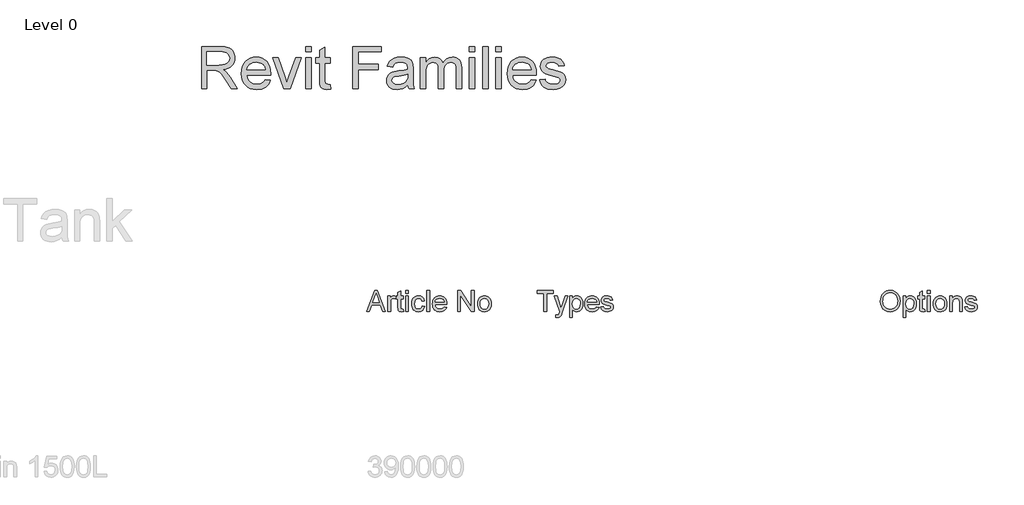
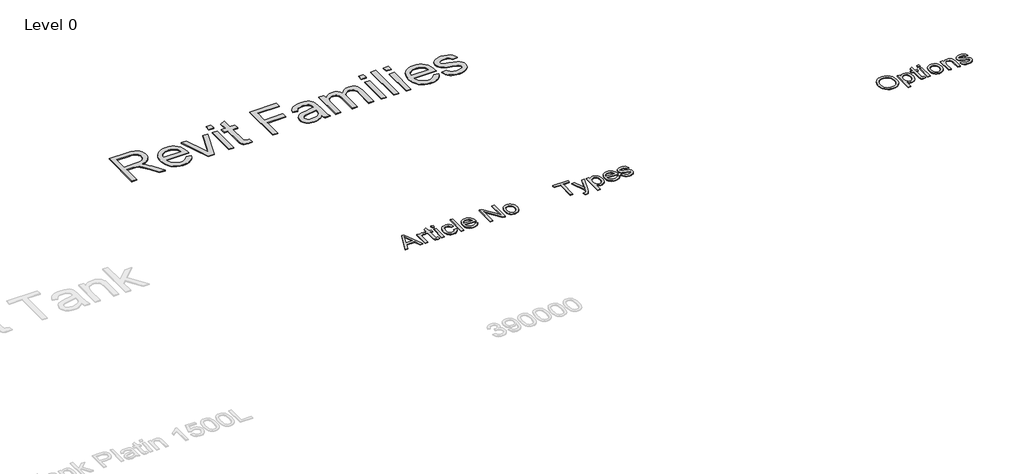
# One storey, part 14 of 14: 4 proxies.
"""IFC4 building model written with IfcOpenShell, lengths in millimetres."""

from ifc_helpers import new_model, si_unit, origin, origin_with_axes, place, context, project, spatial, polyline, outline, extrude, element, save

model = new_model("IFC4")

# Units and contexts
model_context = context("Model", 3, world=origin())
ifc_project = project(units=[si_unit("LENGTHUNIT", "METRE", prefix="MILLI")], contexts=[model_context])

# Site, building, storey
site = spatial("IfcSite", under=ifc_project)
building = spatial("IfcBuilding", under=site)
storey = spatial("IfcBuildingStorey", under=building, Name="Level 0", Elevation=0.0)

# Proxies
placement = place(None, origin())
element("IfcBuildingElementProxy", 1, Name="300mm Arial", ObjectType="300mm Arial", at=placement, inside=storey, context=model_context, shape_type="SweptSolid", body=[
    extrude(outline(polyline([(-3763.9663544, 11653.8274553), (-3763.9663544, 11912.2889938), (-3860.8894313, 11912.2889938), (-3860.8894313, 11949.2120707), (-3630.1202005, 11949.2120707), (-3630.1202005, 11912.2889938), (-3727.0432775, 11912.2889938), (-3727.0432775, 11653.8274553), (-3763.9663544, 11653.8274553)])), origin_with_axes(), (0.0, 0.0, 1.0), 10.0),
    extrude(outline(polyline([(-3593.1971236, 11570.7505323), (-3597.8125082, 11606.3034169), (-3579.0625082, 11603.0582246), (-3561.5384698, 11607.1327438), (-3550.7932775, 11618.4909169), (-3540.6971236, 11645.6784169), (-3537.8125082, 11654.6207246), (-3616.2740467, 11870.7505323), (-3577.331739, 11870.7505323), (-3535.7211621, 11750.31784), (-3521.2259698, 11702.144763), (-3506.7307775, 11744.69284), (-3463.9663544, 11870.7505323), (-3425.3125082, 11870.7505323), (-3500.8173159, 11648.6351476), (-3520.4327005, 11600.4620707), (-3530.4747678, 11585.083465), (-3541.8509698, 11574.4284169), (-3555.066114, 11568.208465), (-3570.6250082, 11566.1351476), (-3593.1971236, 11570.7505323)])), origin_with_axes(), (0.0, 0.0, 1.0), 10.0),
    extrude(outline(polyline([(-3394.7355852, 11570.7505323), (-3394.7355852, 11870.7505323), (-3357.8125082, 11870.7505323), (-3357.8125082, 11834.5486092), (-3345.769239, 11852.4061813), (-3332.2836621, 11865.16159), (-3316.5625082, 11872.8148351), (-3297.8125082, 11875.3659169), (-3272.8425563, 11871.7962053), (-3251.0096236, 11861.0870707), (-3233.2331813, 11843.8875515), (-3220.4327005, 11820.8466861), (-3212.6983255, 11793.6411573), (-3210.1202005, 11763.9476476), (-3213.0318592, 11732.3701236), (-3221.7668352, 11704.1279361), (-3236.0456813, 11680.6543784), (-3255.5889505, 11663.3827438), (-3278.3503688, 11652.754739), (-3302.2836621, 11649.2120707), (-3319.2578207, 11651.582864), (-3334.4110659, 11658.6952438), (-3347.3828207, 11669.4314217), (-3357.8125082, 11682.6736092), (-3357.8125082, 11570.7505323), (-3394.7355852, 11570.7505323)]), holes=[polyline([(-3357.8125082, 11760.5582246), (-3353.8191188, 11727.457263), (-3341.8389505, 11704.3082246), (-3324.1616669, 11690.6784169), (-3303.0769313, 11686.1351476), (-3281.6496477, 11690.8406765), (-3263.5216428, 11704.957263), (-3251.1628688, 11728.9536573), (-3247.0432775, 11763.2986092), (-3251.0637102, 11796.2192823), (-3263.1250082, 11819.69284), (-3280.7752486, 11833.75534), (-3301.5625082, 11838.44284), (-3322.4308977, 11833.457864), (-3340.7572198, 11818.5029361), (-3353.5486861, 11794.0468063), (-3357.8125082, 11760.5582246)])]), origin_with_axes(), (0.0, 0.0, 1.0), 10.0),
    extrude(outline(polyline([(-3016.706739, 11718.44284), (-2980.5048159, 11713.8274553), (-2993.5486861, 11686.5498111), (-3014.362989, 11666.1591861), (-3042.4789746, 11653.4488496), (-3077.4278928, 11649.2120707), (-3100.3380491, 11651.039745), (-3120.7512102, 11656.5227678), (-3138.667376, 11665.6611392), (-3154.0865467, 11678.4548592), (-3166.4858856, 11694.547858), (-3175.3425563, 11713.5840659), (-3180.6565587, 11735.563483), (-3182.4278928, 11760.4861092), (-3180.6385299, 11786.2538375), (-3175.2704409, 11808.9656765), (-3166.323626, 11828.621626), (-3153.7980852, 11845.2216861), (-3138.4194794, 11858.4097871), (-3120.9134698, 11867.8298592), (-3101.2800563, 11873.4819025), (-3079.519239, 11875.3659169), (-3058.4592931, 11873.4864097), (-3039.4140707, 11867.847888), (-3022.3835719, 11858.450352), (-3007.3677967, 11845.2938015), (-2995.1104349, 11828.7297991), (-2986.3551765, 11809.1099073), (-2981.1020215, 11786.434126), (-2979.3509698, 11760.7024553), (-2979.5673159, 11750.7505323), (-3145.5048159, 11750.7505323), (-3139.11359, 11723.1123111), (-3124.2668352, 11702.7938015), (-3102.8395515, 11690.2998111), (-3076.706739, 11686.1351476), (-3057.0552967, 11688.0642342), (-3040.5048159, 11693.8514938), (-3027.0552967, 11703.8575034), (-3016.706739, 11718.44284)]), holes=[polyline([(-3145.5048159, 11787.6736092), (-3016.2740467, 11787.6736092), (-3021.2680371, 11807.1808207), (-3031.0577005, 11821.1351476), (-3052.5841428, 11834.1159169), (-3079.6634698, 11838.44284), (-3104.5522919, 11834.9903159), (-3125.1322198, 11824.6327438), (-3139.4381092, 11808.4879121), (-3145.5048159, 11787.6736092)])]), origin_with_axes(), (0.0, 0.0, 1.0), 10.0),
    extrude(outline(polyline([(-2956.2740467, 11718.44284), (-2919.3509698, 11723.0582246), (-2913.5276525, 11707.2649553), (-2902.2596236, 11695.6543784), (-2885.4747678, 11688.5149553), (-2863.1009698, 11686.1351476), (-2840.9976044, 11688.316638), (-2825.456739, 11694.8611092), (-2816.2620275, 11704.3442823), (-2813.1971236, 11715.3418784), (-2816.2800563, 11724.7529361), (-2825.5288544, 11731.9284169), (-2863.5336621, 11742.457263), (-2919.1346236, 11760.5221669), (-2933.206138, 11769.5996909), (-2943.4014505, 11781.6159169), (-2949.5943592, 11795.8046188), (-2951.6586621, 11811.3995707), (-2950.0000082, 11825.7054601), (-2945.0240467, 11838.91159), (-2937.1814986, 11850.4951236), (-2926.9230852, 11859.9332246), (-2903.4495275, 11870.8587053), (-2871.6827005, 11875.3659169), (-2847.6502486, 11873.5540178), (-2826.7548159, 11868.1183207), (-2809.9519313, 11859.5906765), (-2798.1971236, 11848.5029361), (-2790.4086621, 11834.0347871), (-2785.5048159, 11815.3659169), (-2822.4278928, 11810.7505323), (-2827.0883496, 11822.3701236), (-2836.3101044, 11831.1231284), (-2850.1833015, 11836.6129121), (-2868.7980852, 11838.44284), (-2890.0000082, 11836.6940419), (-2904.1346236, 11831.4476476), (-2912.0853448, 11823.8755323), (-2914.7355852, 11815.1495707), (-2910.3365467, 11804.4043784), (-2896.5625082, 11796.25534), (-2864.7596236, 11788.394763), (-2810.5649121, 11771.0149553), (-2796.2500082, 11762.7036573), (-2785.3966428, 11751.3274553), (-2778.5546957, 11736.8502919), (-2776.2740467, 11719.2361092), (-2778.9513303, 11701.0269746), (-2786.9831813, 11683.8995707), (-2800.0631092, 11669.1970467), (-2817.8846236, 11658.2625515), (-2839.4110659, 11651.4746909), (-2863.6057775, 11649.2120707), (-2900.8353448, 11653.5750515), (-2928.0048159, 11666.6639938), (-2946.1418352, 11688.3346669), (-2956.2740467, 11718.44284)])), origin_with_axes(), (0.0, 0.0, 1.0), 10.0),
])
element("IfcBuildingElementProxy", 2, Name="300mm Arial", ObjectType="300mm Arial", at=placement, inside=storey, context=model_context, shape_type="SweptSolid", body=[
    extrude(outline(polyline([(1016.0617812, 11797.6255323), (1018.5227187, 11832.2724674), (1025.9055312, 11862.9440419), (1038.2102187, 11889.6402558), (1055.4367812, 11912.3611092), (1076.5530673, 11930.5026356), (1100.5269254, 11943.4608688), (1127.3583557, 11951.2358087), (1157.0473581, 11953.8274553), (1195.7913485, 11948.9596669), (1230.5329351, 11934.3563015), (1259.3790889, 11911.0450034), (1280.4367812, 11880.0534169), (1293.3093774, 11842.8779361), (1297.6002427, 11801.0149553), (1293.0840168, 11758.5930803), (1279.5353389, 11720.894763), (1257.7024062, 11689.84909), (1228.3334158, 11667.3851476), (1193.8893052, 11653.75534), (1156.831012, 11649.2120707), (1117.4920697, 11654.2331044), (1082.5521658, 11669.2962053), (1053.7781274, 11693.0401957), (1032.9367812, 11724.1038976), (1020.2805312, 11759.8460851), (1016.0617812, 11797.6255323)]), holes=[polyline([(1052.9848581, 11797.2649553), (1054.8305613, 11772.7862895), (1060.3676706, 11751.0570226), (1069.5961863, 11732.0771549), (1082.5161081, 11715.8466861), (1098.2214867, 11702.847888), (1115.8063726, 11693.5630323), (1135.2707656, 11687.9921188), (1156.6146658, 11686.1351476), (1178.3236502, 11688.0101476), (1198.017911, 11693.6351476), (1215.6974483, 11703.0101476), (1231.362262, 11716.1351476), (1244.1875324, 11732.7081645), (1253.3484399, 11752.427215), (1258.8449843, 11775.2922991), (1260.6771658, 11801.3034169), (1257.5401466, 11833.989715), (1248.1290889, 11862.2409169), (1232.6873822, 11885.3448832), (1211.4584158, 11902.5894746), (1185.8484399, 11913.3256525), (1157.2637043, 11916.9043784), (1136.6612403, 11915.18037), (1117.5461562, 11910.0083448), (1099.9184519, 11901.3883027), (1083.7781274, 11889.3202438), (1070.3060721, 11873.2227378), (1060.6831754, 11852.5143544), (1054.9094375, 11827.1950936), (1052.9848581, 11797.2649553)])]), origin_with_axes(), (0.0, 0.0, 1.0), 10.0),
    extrude(outline(polyline([(1343.7540889, 11570.7505323), (1343.7540889, 11870.7505323), (1380.6771658, 11870.7505323), (1380.6771658, 11834.5486092), (1392.7204351, 11852.4061813), (1406.206012, 11865.16159), (1421.9271658, 11872.8148351), (1440.6771658, 11875.3659169), (1465.6471177, 11871.7962053), (1487.4800504, 11861.0870707), (1505.2564927, 11843.8875515), (1518.0569735, 11820.8466861), (1525.7913485, 11793.6411573), (1528.3694735, 11763.9476476), (1525.4578149, 11732.3701236), (1516.7228389, 11704.1279361), (1502.4439927, 11680.6543784), (1482.9007235, 11663.3827438), (1460.1393052, 11652.754739), (1436.206012, 11649.2120707), (1419.2318533, 11651.582864), (1404.0786081, 11658.6952438), (1391.1068533, 11669.4314217), (1380.6771658, 11682.6736092), (1380.6771658, 11570.7505323), (1343.7540889, 11570.7505323)]), holes=[polyline([(1380.6771658, 11760.5582246), (1384.6705552, 11727.457263), (1396.6507235, 11704.3082246), (1414.3280072, 11690.6784169), (1435.4127427, 11686.1351476), (1456.8400264, 11690.8406765), (1474.9680312, 11704.957263), (1487.3268052, 11728.9536573), (1491.4463966, 11763.2986092), (1487.4259639, 11796.2192823), (1475.3646658, 11819.69284), (1457.7144254, 11833.75534), (1436.9271658, 11838.44284), (1416.0587764, 11833.457864), (1397.7324543, 11818.5029361), (1384.9409879, 11794.0468063), (1380.6771658, 11760.5582246)])]), origin_with_axes(), (0.0, 0.0, 1.0), 10.0),
    extrude(outline(polyline([(1648.3694735, 11684.6207246), (1652.9848581, 11652.7457246), (1625.3646658, 11649.2120707), (1607.6423101, 11650.7445226), (1594.4271658, 11655.3418784), (1585.0882235, 11662.427215), (1578.9944735, 11671.4236092), (1575.6411081, 11686.8743303), (1574.5233197, 11713.3226476), (1574.5233197, 11833.8274553), (1546.831012, 11833.8274553), (1546.831012, 11870.7505323), (1574.5233197, 11870.7505323), (1574.5233197, 11923.4668784), (1611.4463966, 11945.1736092), (1611.4463966, 11870.7505323), (1648.3694735, 11870.7505323), (1648.3694735, 11833.8274553), (1611.4463966, 11833.8274553), (1611.4463966, 11714.4043784), (1613.393512, 11695.3659169), (1619.7036081, 11688.6231284), (1632.2877427, 11686.1351476), (1648.3694735, 11684.6207246)])), origin_with_axes(), (0.0, 0.0, 1.0), 10.0),
    extrude(outline(polyline([(1685.2925504, 11653.8274553), (1685.2925504, 11870.7505323), (1722.2156274, 11870.7505323), (1722.2156274, 11653.8274553), (1685.2925504, 11653.8274553)])), origin_with_axes(), (0.0, 0.0, 1.0), 10.0),
    extrude(outline(polyline([(1685.2925504, 11912.2889938), (1685.2925504, 11949.2120707), (1722.2156274, 11949.2120707), (1722.2156274, 11912.2889938), (1685.2925504, 11912.2889938)])), origin_with_axes(), (0.0, 0.0, 1.0), 10.0),
    extrude(outline(polyline([(1768.3694735, 11762.2889938), (1770.3661682, 11790.3824433), (1776.3562524, 11814.5906765), (1786.3397259, 11834.9136933), (1800.3165889, 11851.3514938), (1814.3881033, 11861.8578039), (1829.9199543, 11869.3623111), (1846.9121418, 11873.8650154), (1865.3646658, 11875.3659169), (1885.7350084, 11873.5382426), (1904.1537283, 11868.0552198), (1920.6208257, 11858.9168484), (1935.1363004, 11846.1231284), (1946.983506, 11830.1067522), (1955.4457956, 11811.3004121), (1960.5231694, 11789.704108), (1962.2156274, 11765.31784), (1959.2228389, 11728.0161573), (1950.2444735, 11699.6207246), (1935.5419495, 11678.3557005), (1915.3766851, 11662.4452438), (1891.4253629, 11652.520364), (1865.3646658, 11649.2120707), (1844.6968473, 11651.0329842), (1826.1068533, 11656.4957246), (1809.5946838, 11665.6002919), (1795.1603389, 11678.3466861), (1783.4393353, 11694.5185611), (1775.0671899, 11713.8995707), (1770.0439026, 11736.489715), (1768.3694735, 11762.2889938)]), holes=[polyline([(1805.2925504, 11762.3611092), (1809.565387, 11728.9446428), (1822.3838966, 11705.1375515), (1841.674762, 11690.8857486), (1865.3646658, 11686.1351476), (1888.9463966, 11690.9127919), (1908.2012043, 11705.2457246), (1921.0197139, 11729.3683207), (1925.2925504, 11763.5149553), (1920.9926706, 11795.957864), (1908.0930312, 11819.4404361), (1888.8111802, 11833.692239), (1865.3646658, 11838.44284), (1841.674762, 11833.7102678), (1822.3838966, 11819.5125515), (1809.565387, 11795.7595467), (1805.2925504, 11762.3611092)])]), origin_with_axes(), (0.0, 0.0, 1.0), 10.0),
    extrude(outline(polyline([(2003.7540889, 11653.8274553), (2003.7540889, 11870.7505323), (2040.6771658, 11870.7505323), (2040.6771658, 11840.4620707), (2053.5046899, 11855.7325034), (2068.9103389, 11866.6399553), (2086.8941129, 11873.1844265), (2107.456012, 11875.3659169), (2125.6561322, 11873.6081044), (2142.3238004, 11868.3346669), (2156.2240408, 11860.2036573), (2166.1218774, 11849.8731284), (2177.1915889, 11822.7216861), (2179.1387043, 11787.0245707), (2179.1387043, 11653.8274553), (2142.2156274, 11653.8274553), (2142.2156274, 11782.0486092), (2137.9608197, 11814.7168784), (2132.0744014, 11824.4434409), (2122.924762, 11831.988513), (2111.1969976, 11836.8292582), (2097.5762043, 11838.44284), (2075.9506033, 11834.8190419), (2057.5161081, 11823.9476476), (2050.1490709, 11815.0729481), (2044.8869014, 11802.9440419), (2040.6771658, 11768.9236092), (2040.6771658, 11653.8274553), (2003.7540889, 11653.8274553)])), origin_with_axes(), (0.0, 0.0, 1.0), 10.0),
    extrude(outline(polyline([(2216.0617812, 11718.44284), (2252.9848581, 11723.0582246), (2258.8081754, 11707.2649553), (2270.0762043, 11695.6543784), (2286.8610601, 11688.5149553), (2309.2348581, 11686.1351476), (2331.3382235, 11688.316638), (2346.8790889, 11694.8611092), (2356.0738004, 11704.3442823), (2359.1387043, 11715.3418784), (2356.0557716, 11724.7529361), (2346.8069735, 11731.9284169), (2308.8021658, 11742.457263), (2253.2012043, 11760.5221669), (2239.1296899, 11769.5996909), (2228.9343774, 11781.6159169), (2222.7414687, 11795.8046188), (2220.6771658, 11811.3995707), (2222.3358197, 11825.7054601), (2227.3117812, 11838.91159), (2235.1543293, 11850.4951236), (2245.4127427, 11859.9332246), (2268.8863004, 11870.8587053), (2300.6531274, 11875.3659169), (2324.6855793, 11873.5540178), (2345.581012, 11868.1183207), (2362.3838966, 11859.5906765), (2374.1387043, 11848.5029361), (2381.9271658, 11834.0347871), (2386.831012, 11815.3659169), (2349.9079351, 11810.7505323), (2345.2474783, 11822.3701236), (2336.0257235, 11831.1231284), (2322.1525264, 11836.6129121), (2303.5377427, 11838.44284), (2282.3358197, 11836.6940419), (2268.2012043, 11831.4476476), (2260.2504831, 11823.8755323), (2257.6002427, 11815.1495707), (2261.9992812, 11804.4043784), (2275.7733197, 11796.25534), (2307.5762043, 11788.394763), (2361.7709158, 11771.0149553), (2376.0858197, 11762.7036573), (2386.9391851, 11751.3274553), (2393.7811322, 11736.8502919), (2396.0617812, 11719.2361092), (2393.3844976, 11701.0269746), (2385.3526466, 11683.8995707), (2372.2727187, 11669.1970467), (2354.4512043, 11658.2625515), (2332.924762, 11651.4746909), (2308.7300504, 11649.2120707), (2271.5004831, 11653.5750515), (2244.331012, 11666.6639938), (2226.1939927, 11688.3346669), (2216.0617812, 11718.44284)])), origin_with_axes(), (0.0, 0.0, 1.0), 10.0),
])
element("IfcBuildingElementProxy", 3, Name="300mm Arial", ObjectType="300mm Arial", at=placement, inside=storey, context=model_context, shape_type="SweptSolid", body=[
    extrude(outline(polyline([(-6282.2115467, 11653.8274553), (-6164.3028928, 11949.2120707), (-6132.8605852, 11949.2120707), (-6014.9519313, 11653.8274553), (-6053.9663544, 11653.8274553), (-6087.7884698, 11746.1351476), (-6209.4471236, 11746.1351476), (-6243.1971236, 11653.8274553), (-6282.2115467, 11653.8274553)]), holes=[polyline([(-6195.8894313, 11783.0582246), (-6101.2740467, 11783.0582246), (-6127.8846236, 11855.6784169), (-6148.581739, 11912.2889938), (-6166.9711621, 11862.0245707), (-6195.8894313, 11783.0582246)])]), origin_with_axes(), (0.0, 0.0, 1.0), 10.0),
    extrude(outline(polyline([(-5980.1202005, 11653.8274553), (-5980.1202005, 11870.7505323), (-5947.8125082, 11870.7505323), (-5947.8125082, 11838.6591861), (-5935.8774121, 11857.2649553), (-5924.8798159, 11868.2264938), (-5913.8461621, 11873.5810611), (-5901.8028928, 11875.3659169), (-5883.4134698, 11872.5173592), (-5864.7355852, 11863.9716861), (-5877.0673159, 11830.8707246), (-5890.0480852, 11836.5498111), (-5903.0288544, 11838.44284), (-5914.0534938, 11836.6219265), (-5923.9062582, 11831.1591861), (-5931.8659938, 11822.4692823), (-5937.2115467, 11810.9668784), (-5941.7007294, 11790.3418784), (-5943.1971236, 11767.8418784), (-5943.1971236, 11653.8274553), (-5980.1202005, 11653.8274553)])), origin_with_axes(), (0.0, 0.0, 1.0), 10.0),
    extrude(outline(polyline([(-5763.1971236, 11684.6207246), (-5758.581739, 11652.7457246), (-5786.2019313, 11649.2120707), (-5803.9242871, 11650.7445226), (-5817.1394313, 11655.3418784), (-5826.4783736, 11662.427215), (-5832.5721236, 11671.4236092), (-5835.925489, 11686.8743303), (-5837.0432775, 11713.3226476), (-5837.0432775, 11833.8274553), (-5864.7355852, 11833.8274553), (-5864.7355852, 11870.7505323), (-5837.0432775, 11870.7505323), (-5837.0432775, 11923.4668784), (-5800.1202005, 11945.1736092), (-5800.1202005, 11870.7505323), (-5763.1971236, 11870.7505323), (-5763.1971236, 11833.8274553), (-5800.1202005, 11833.8274553), (-5800.1202005, 11714.4043784), (-5798.1730852, 11695.3659169), (-5791.862989, 11688.6231284), (-5779.2788544, 11686.1351476), (-5763.1971236, 11684.6207246)])), origin_with_axes(), (0.0, 0.0, 1.0), 10.0),
    extrude(outline(polyline([(-5726.2740467, 11912.2889938), (-5726.2740467, 11949.2120707), (-5689.3509698, 11949.2120707), (-5689.3509698, 11912.2889938), (-5726.2740467, 11912.2889938)])), origin_with_axes(), (0.0, 0.0, 1.0), 10.0),
    extrude(outline(polyline([(-5726.2740467, 11653.8274553), (-5726.2740467, 11870.7505323), (-5689.3509698, 11870.7505323), (-5689.3509698, 11653.8274553), (-5726.2740467, 11653.8274553)])), origin_with_axes(), (0.0, 0.0, 1.0), 10.0),
    extrude(outline(polyline([(-5495.5048159, 11732.2889938), (-5458.581739, 11727.6736092), (-5468.8762102, 11694.8340659), (-5488.2211621, 11670.0173592), (-5514.7956813, 11654.4133928), (-5546.7788544, 11649.2120707), (-5567.4872378, 11651.0262234), (-5586.0546957, 11656.4686813), (-5602.4812282, 11665.5394445), (-5616.7668352, 11678.238513), (-5628.3300864, 11694.3270046), (-5636.5895515, 11713.5660371), (-5641.5452306, 11735.9556104), (-5643.1971236, 11761.4957246), (-5640.3756092, 11794.3532967), (-5631.9110659, 11822.8298592), (-5617.6682775, 11845.8256525), (-5597.5120275, 11862.2409169), (-5573.3984457, 11872.0846669), (-5547.2836621, 11875.3659169), (-5516.0847438, 11870.8587053), (-5491.1418352, 11857.3370707), (-5473.2482053, 11835.5221669), (-5463.1971236, 11806.1351476), (-5500.1202005, 11801.519763), (-5506.8179169, 11817.6285371), (-5517.2476044, 11829.176013), (-5530.83234, 11836.1261332), (-5546.9952005, 11838.44284), (-5570.8563784, 11833.8815419), (-5589.7956813, 11820.1976476), (-5602.1544553, 11796.6519746), (-5606.2740467, 11762.50534), (-5602.2445996, 11727.8989698), (-5590.1562582, 11704.2721669), (-5571.5595034, 11690.6694025), (-5548.0048159, 11686.1351476), (-5528.8852246, 11688.9656765), (-5513.2091428, 11697.457263), (-5501.8058977, 11711.8262534), (-5495.5048159, 11732.2889938)])), origin_with_axes(), (0.0, 0.0, 1.0), 10.0),
    extrude(outline(polyline([(-5426.2740467, 11653.8274553), (-5426.2740467, 11949.2120707), (-5389.3509698, 11949.2120707), (-5389.3509698, 11653.8274553), (-5426.2740467, 11653.8274553)])), origin_with_axes(), (0.0, 0.0, 1.0), 10.0),
    extrude(outline(polyline([(-5182.0913544, 11718.44284), (-5145.8894313, 11713.8274553), (-5158.9333015, 11686.5498111), (-5179.7476044, 11666.1591861), (-5207.86359, 11653.4488496), (-5242.8125082, 11649.2120707), (-5265.7226645, 11651.039745), (-5286.1358255, 11656.5227678), (-5304.0519914, 11665.6611392), (-5319.4711621, 11678.4548592), (-5331.870501, 11694.547858), (-5340.7271717, 11713.5840659), (-5346.0411741, 11735.563483), (-5347.8125082, 11760.4861092), (-5346.0231453, 11786.2538375), (-5340.6550563, 11808.9656765), (-5331.7082414, 11828.621626), (-5319.1827005, 11845.2216861), (-5303.8040948, 11858.4097871), (-5286.2980852, 11867.8298592), (-5266.6646717, 11873.4819025), (-5244.9038544, 11875.3659169), (-5223.8439085, 11873.4864097), (-5204.7986861, 11867.847888), (-5187.7681873, 11858.450352), (-5172.7524121, 11845.2938015), (-5160.4950503, 11828.7297991), (-5151.7397919, 11809.1099073), (-5146.4866368, 11786.434126), (-5144.7355852, 11760.7024553), (-5144.9519313, 11750.7505323), (-5310.8894313, 11750.7505323), (-5304.4982053, 11723.1123111), (-5289.6514505, 11702.7938015), (-5268.2241669, 11690.2998111), (-5242.0913544, 11686.1351476), (-5222.4399121, 11688.0642342), (-5205.8894313, 11693.8514938), (-5192.4399121, 11703.8575034), (-5182.0913544, 11718.44284)]), holes=[polyline([(-5310.8894313, 11787.6736092), (-5181.6586621, 11787.6736092), (-5186.6526525, 11807.1808207), (-5196.4423159, 11821.1351476), (-5217.9687582, 11834.1159169), (-5245.0480852, 11838.44284), (-5269.9369073, 11834.9903159), (-5290.5168352, 11824.6327438), (-5304.8227246, 11808.4879121), (-5310.8894313, 11787.6736092)])]), origin_with_axes(), (0.0, 0.0, 1.0), 10.0),
    extrude(outline(polyline([(-4987.8125082, 11653.8274553), (-4987.8125082, 11949.2120707), (-4948.2932775, 11949.2120707), (-4793.9663544, 11715.1976476), (-4793.9663544, 11949.2120707), (-4757.0432775, 11949.2120707), (-4757.0432775, 11653.8274553), (-4796.5625082, 11653.8274553), (-4950.8894313, 11887.9139938), (-4950.8894313, 11653.8274553), (-4987.8125082, 11653.8274553)])), origin_with_axes(), (0.0, 0.0, 1.0), 10.0),
    extrude(outline(polyline([(-4706.2740467, 11762.2889938), (-4704.277352, 11790.3824433), (-4698.2872678, 11814.5906765), (-4688.3037943, 11834.9136933), (-4674.3269313, 11851.3514938), (-4660.2554169, 11861.8578039), (-4644.7235659, 11869.3623111), (-4627.7313784, 11873.8650154), (-4609.2788544, 11875.3659169), (-4588.9085118, 11873.5382426), (-4570.4897919, 11868.0552198), (-4554.0226945, 11858.9168484), (-4539.5072198, 11846.1231284), (-4527.6600142, 11830.1067522), (-4519.1977246, 11811.3004121), (-4514.1203508, 11789.704108), (-4512.4278928, 11765.31784), (-4515.4206813, 11728.0161573), (-4524.3990467, 11699.6207246), (-4539.1015707, 11678.3557005), (-4559.2668352, 11662.4452438), (-4583.2181573, 11652.520364), (-4609.2788544, 11649.2120707), (-4629.9466729, 11651.0329842), (-4648.5366669, 11656.4957246), (-4665.0488364, 11665.6002919), (-4679.4831813, 11678.3466861), (-4691.2041849, 11694.5185611), (-4699.5763303, 11713.8995707), (-4704.5996176, 11736.489715), (-4706.2740467, 11762.2889938)]), holes=[polyline([(-4669.3509698, 11762.3611092), (-4665.0781332, 11728.9446428), (-4652.2596236, 11705.1375515), (-4632.9687582, 11690.8857486), (-4609.2788544, 11686.1351476), (-4585.6971236, 11690.9127919), (-4566.4423159, 11705.2457246), (-4553.6238063, 11729.3683207), (-4549.3509698, 11763.5149553), (-4553.6508496, 11795.957864), (-4566.550489, 11819.4404361), (-4585.83234, 11833.692239), (-4609.2788544, 11838.44284), (-4632.9687582, 11833.7102678), (-4652.2596236, 11819.5125515), (-4665.0781332, 11795.7595467), (-4669.3509698, 11762.3611092)])]), origin_with_axes(), (0.0, 0.0, 1.0), 10.0),
])
element("IfcBuildingElementProxy", 4, Name="600mm Arial", ObjectType="600mm Arial", at=placement, inside=storey, context=model_context, shape_type="SweptSolid", body=[
    extrude(outline(polyline([(-8626.1144326, 14819.3449091), (-8626.1144326, 15422.08277), (-8366.389744, 15422.08277), (-8296.5841354, 15418.017674), (-8245.798026, 15405.8223859), (-8226.1991127, 15396.1286953), (-8208.6787327, 15383.3080077), (-8193.2368859, 15367.3603233), (-8179.8735725, 15348.2856418), (-8169.0900315, 15327.1094345), (-8161.3875022, 15304.8571723), (-8156.7659846, 15281.5288553), (-8155.2254788, 15257.1244834), (-8157.7776601, 15226.1672135), (-8165.4342042, 15197.7483294), (-8178.1951109, 15171.867831), (-8196.0603802, 15148.5257184), (-8219.2599386, 15128.4669526), (-8248.0237121, 15112.4364947), (-8282.3517007, 15100.4343446), (-8322.2439046, 15092.4605024), (-8297.4118699, 15076.2369064), (-8279.4224404, 15060.2340396), (-8248.557141, 15023.6297811), (-8218.3540292, 14982.684515), (-8117.8486681, 14819.3449091), (-8205.4045829, 14819.3449091), (-8283.8370243, 14944.2776347), (-8340.4908516, 15026.9775072), (-8361.5520958, 15051.092172), (-8380.2956834, 15066.0465751), (-8416.1273898, 15080.3939729), (-8459.8317708, 15083.0427233), (-8550.7722, 15083.0427233), (-8550.7722, 14819.3449091), (-8626.1144326, 14819.3449091)]), holes=[polyline([(-8550.7722, 15158.3849559), (-8382.1350934, 15158.3849559), (-8333.7034287, 15161.0521004), (-8296.1242829, 15169.0535338), (-8267.8341575, 15182.922685), (-8247.269554, 15203.1929829), (-8234.743172, 15227.7123179), (-8230.5677114, 15254.3285802), (-8232.5588727, 15273.5963997), (-8238.5323566, 15291.0799916), (-8248.4881631, 15306.7793557), (-8262.4262922, 15320.6944922), (-8280.6686406, 15332.089637), (-8303.5371051, 15340.2290261), (-8331.0316858, 15345.1126596), (-8363.1523825, 15346.7405374), (-8550.7722, 15346.7405374), (-8550.7722, 15158.3849559)])]), origin_with_axes(), (0.0, 0.0, 1.0), 10.0),
    extrude(outline(polyline([(-7722.8905581, 14951.1938162), (-7649.0198534, 14941.7760371), (-7660.3460203, 14912.1891277), (-7675.6361158, 14886.1154913), (-7694.8901397, 14863.5551279), (-7718.1080921, 14844.5080376), (-7745.0508497, 14829.3788906), (-7775.4792893, 14818.572357), (-7809.3934107, 14812.0884368), (-7846.793214, 14809.9271301), (-7893.5418186, 14813.6565338), (-7935.1952575, 14824.844745), (-7971.7535307, 14843.4917636), (-8003.2166384, 14869.5975897), (-8028.5177226, 14902.4356563), (-8046.5899256, 14941.2793964), (-8057.4332474, 14986.1288102), (-8061.047688, 15036.9838975), (-8057.3964592, 15089.5634316), (-8046.4427728, 15135.907366), (-8028.1866288, 15176.0157005), (-8002.6280272, 15209.8884352), (-7971.247693, 15236.7990032), (-7935.5263513, 15256.0208374), (-7895.464002, 15267.553938), (-7851.0606452, 15271.3983048), (-7808.0874296, 15267.563135), (-7769.2252953, 15256.0576256), (-7734.4742424, 15236.8817766), (-7703.8342707, 15210.035588), (-7678.8228936, 15176.2364297), (-7660.9576242, 15136.2016716), (-7650.2384625, 15089.9313136), (-7646.6654087, 15037.4253559), (-7647.106867, 15017.1182697), (-7985.7054554, 15017.1182697), (-7981.3414552, 14987.0531137), (-7972.6640387, 14960.7219599), (-7959.6732057, 14938.1248083), (-7942.3689564, 14919.261659), (-7921.7077838, 14904.3900294), (-7898.6461812, 14893.7674368), (-7873.1841487, 14887.3938812), (-7845.321686, 14885.2693627), (-7805.2225486, 14889.2057), (-7771.4509814, 14901.0147121), (-7744.0069846, 14921.4321628), (-7722.8905581, 14951.1938162)]), holes=[polyline([(-7985.7054554, 15092.4605024), (-7722.0076413, 15092.4605024), (-7732.1979725, 15132.2653342), (-7740.9627611, 15147.9187131), (-7752.1739649, 15160.7394007), (-7772.7201743, 15176.1904445), (-7796.0990751, 15187.2269043), (-7822.3106672, 15193.8487802), (-7851.3549508, 15196.0560722), (-7877.8470529, 15194.2948372), (-7902.1410602, 15189.011132), (-7924.2369725, 15180.2049567), (-7944.13479, 15167.8763114), (-7960.832034, 15152.595413), (-7973.3262263, 15134.9324787), (-7981.6173667, 15114.8875085), (-7985.7054554, 15092.4605024)])]), origin_with_axes(), (0.0, 0.0, 1.0), 10.0),
    extrude(outline(polyline([(-7462.7244111, 14819.3449091), (-7618.4120714, 15261.9805257), (-7538.6552549, 15261.9805257), (-7444.3303113, 14996.8111836), (-7415.9298213, 14907.636588), (-7388.1179424, 14991.8079885), (-7293.2043877, 15261.9805257), (-7213.4475711, 15261.9805257), (-7367.2222451, 14819.3449091), (-7462.7244111, 14819.3449091)])), origin_with_axes(), (0.0, 0.0, 1.0), 10.0),
    extrude(outline(polyline([(-7147.5231176, 15346.7405374), (-7147.5231176, 15422.08277), (-7072.180885, 15422.08277), (-7072.180885, 15346.7405374), (-7147.5231176, 15346.7405374)])), origin_with_axes(), (0.0, 0.0, 1.0), 10.0),
    extrude(outline(polyline([(-7147.5231176, 14819.3449091), (-7147.5231176, 15261.9805257), (-7072.180885, 15261.9805257), (-7072.180885, 14819.3449091), (-7147.5231176, 14819.3449091)])), origin_with_axes(), (0.0, 0.0, 1.0), 10.0),
    extrude(outline(polyline([(-6799.0652918, 14882.1791539), (-6789.6475127, 14817.1376172), (-6846.0070343, 14809.9271301), (-6882.1698345, 14813.054127), (-6909.1355847, 14822.4351179), (-6928.1918721, 14836.8928803), (-6940.6262835, 14855.2501919), (-6947.4688886, 14886.7776789), (-6949.749757, 14940.7459676), (-6949.749757, 15186.6382931), (-7006.2564314, 15186.6382931), (-7006.2564314, 15261.9805257), (-6949.749757, 15261.9805257), (-6949.749757, 15369.5492211), (-6874.4075244, 15413.8422133), (-6874.4075244, 15261.9805257), (-6799.0652918, 15261.9805257), (-6799.0652918, 15186.6382931), (-6874.4075244, 15186.6382931), (-6874.4075244, 14942.9532595), (-6870.4343988, 14904.1049208), (-6857.558529, 14890.3461342), (-6846.687616, 14886.5385556), (-6831.8803657, 14885.2693627), (-6799.0652918, 14882.1791539)])), origin_with_axes(), (0.0, 0.0, 1.0), 10.0),
    extrude(outline(polyline([(-6478.8608032, 14819.3449091), (-6478.8608032, 15422.08277), (-6073.8963029, 15422.08277), (-6073.8963029, 15346.7405374), (-6403.5185706, 15346.7405374), (-6403.5185706, 15167.802735), (-6120.9851983, 15167.802735), (-6120.9851983, 15092.4605024), (-6403.5185706, 15092.4605024), (-6403.5185706, 14819.3449091), (-6478.8608032, 14819.3449091)])), origin_with_axes(), (0.0, 0.0, 1.0), 10.0),
    extrude(outline(polyline([(-5697.1851398, 14875.8515836), (-5733.182393, 14844.9862842), (-5770.2465041, 14824.7895627), (-5809.2236014, 14813.6427382), (-5850.9598138, 14809.9271301), (-5884.5060532, 14812.1620132), (-5913.9228173, 14818.8666625), (-5939.2101059, 14830.0410782), (-5960.3679192, 14845.68526), (-5977.0743603, 14864.8059267), (-5989.0075325, 14886.4097969), (-5996.1674358, 14910.4968705), (-5998.5540703, 14937.0671476), (-5994.9488267, 14968.300329), (-5984.133096, 14996.6640308), (-5967.4496476, 15020.9442425), (-5946.2412505, 15039.9269535), (-5921.3172454, 15054.2743513), (-5893.4869724, 15064.6486235), (-5828.2982829, 15075.979389), (-5751.2637931, 15087.8987656), (-5697.6265982, 15101.8782814), (-5697.1851398, 15118.6537004), (-5702.3722759, 15152.2781148), (-5708.8561961, 15164.7309203), (-5717.9336843, 15174.2774581), (-5733.6238514, 15183.8056018), (-5752.7353211, 15190.6114187), (-5801.222168, 15196.0560722), (-5846.1037715, 15192.4324346), (-5877.4473174, 15181.5615216), (-5898.8212614, 15161.4567706), (-5913.7940586, 15130.1316187), (-5989.1362912, 15139.5493977), (-5976.0580863, 15180.7521812), (-5956.5419464, 15213.1257968), (-5928.7668558, 15237.8842551), (-5890.9117985, 15256.2415666), (-5844.6138494, 15267.6091203), (-5791.5100834, 15271.3983048), (-5740.5768211, 15268.0505787), (-5700.2017722, 15258.0074002), (-5669.7595371, 15242.9058443), (-5648.6247164, 15224.3829858), (-5634.6084124, 15201.4823316), (-5625.5217272, 15173.2473885), (-5621.8429072, 15107.322935), (-5621.8429072, 15013.5866026), (-5618.0169344, 14882.6941887), (-5612.3515517, 14850.3389672), (-5603.007349, 14819.3449091), (-5678.3495817, 14819.3449091), (-5690.4161111, 14845.5381072), (-5697.1851398, 14875.8515836)]), holes=[polyline([(-5697.1851398, 15026.5360488), (-5747.8057023, 15013.9912728), (-5818.733351, 15003.4330595), (-5883.5541586, 14991.2193773), (-5900.421548, 14982.868456), (-5912.9111418, 14971.3537495), (-5920.6366637, 14957.5581747), (-5923.2118376, 14942.3646483), (-5917.6016372, 14919.9606348), (-5900.7710359, 14901.6033233), (-5873.0879158, 14889.3528528), (-5834.9201588, 14885.2693627), (-5794.4531393, 14889.7759171), (-5758.6950094, 14903.2955804), (-5729.7059082, 14923.2163905), (-5709.5459748, 14946.9263851), (-5700.6064424, 14971.3537495), (-5697.6265982, 15005.1988931), (-5697.1851398, 15026.5360488)])]), origin_with_axes(), (0.0, 0.0, 1.0), 10.0),
    extrude(outline(polyline([(-5518.2473374, 14819.3449091), (-5518.2473374, 15261.9805257), (-5442.9051047, 15261.9805257), (-5442.9051047, 15189.1398907), (-5420.2435738, 15222.5987582), (-5391.1073198, 15248.8103503), (-5356.4896241, 15265.7513162), (-5317.383768, 15271.3983048), (-5275.4820087, 15265.6409516), (-5257.648929, 15258.4442601), (-5241.8943826, 15248.3688919), (-5216.8048305, 15220.72256), (-5200.3972935, 15183.84239), (-5172.9349026, 15222.1481027), (-5141.6097507, 15249.5093261), (-5106.4218379, 15265.9260601), (-5067.3711641, 15271.3983048), (-5037.209439, 15269.122035), (-5010.7357309, 15262.2932254), (-4987.9500398, 15250.9118762), (-4968.8523658, 15234.9779873), (-4953.7554084, 15214.3076177), (-4942.9718674, 15188.7168264), (-4936.5017428, 15158.2056134), (-4934.3450346, 15122.7739788), (-4934.3450346, 14819.3449091), (-5009.6872672, 14819.3449091), (-5009.6872672, 15090.4003632), (-5011.4347067, 15127.979509), (-5016.6770251, 15153.3081844), (-5026.4994744, 15170.6538204), (-5041.9873064, 15184.2838484), (-5061.9081164, 15193.1130162), (-5085.0294998, 15196.0560722), (-5106.3804511, 15194.170677), (-5125.8460072, 15188.5144913), (-5143.426168, 15179.0875152), (-5159.1209337, 15165.8897486), (-5172.0289932, 15148.5349155), (-5181.2490357, 15126.6367397), (-5186.7810612, 15100.1952213), (-5188.6250697, 15069.2103603), (-5188.6250697, 14819.3449091), (-5263.9673023, 14819.3449091), (-5263.9673023, 15098.7880727), (-5268.3267039, 15141.3888077), (-5273.775956, 15158.1090444), (-5281.4049089, 15171.7758605), (-5291.5170652, 15182.3984531), (-5304.4159277, 15189.9860193), (-5320.1014962, 15194.538559), (-5338.5737709, 15196.0560722), (-5367.5996603, 15192.0093703), (-5394.3446814, 15179.8692644), (-5416.4176011, 15159.9300603), (-5431.4271865, 15132.4860634), (-5440.0356252, 15094.4102769), (-5442.9051047, 15042.5757038), (-5442.9051047, 14819.3449091), (-5518.2473374, 14819.3449091)])), origin_with_axes(), (0.0, 0.0, 1.0), 10.0),
    extrude(outline(polyline([(-4821.3316857, 15346.7405374), (-4821.3316857, 15422.08277), (-4745.9894531, 15422.08277), (-4745.9894531, 15346.7405374), (-4821.3316857, 15346.7405374)])), origin_with_axes(), (0.0, 0.0, 1.0), 10.0),
    extrude(outline(polyline([(-4821.3316857, 14819.3449091), (-4821.3316857, 15261.9805257), (-4745.9894531, 15261.9805257), (-4745.9894531, 14819.3449091), (-4821.3316857, 14819.3449091)])), origin_with_axes(), (0.0, 0.0, 1.0), 10.0),
    extrude(outline(polyline([(-4632.9761042, 14819.3449091), (-4632.9761042, 15422.08277), (-4557.6338716, 15422.08277), (-4557.6338716, 14819.3449091), (-4632.9761042, 14819.3449091)])), origin_with_axes(), (0.0, 0.0, 1.0), 10.0),
    extrude(outline(polyline([(-4444.6205226, 15346.7405374), (-4444.6205226, 15422.08277), (-4369.27829, 15422.08277), (-4369.27829, 15346.7405374), (-4444.6205226, 15346.7405374)])), origin_with_axes(), (0.0, 0.0, 1.0), 10.0),
    extrude(outline(polyline([(-4444.6205226, 14819.3449091), (-4444.6205226, 15261.9805257), (-4369.27829, 15261.9805257), (-4369.27829, 14819.3449091), (-4444.6205226, 14819.3449091)])), origin_with_axes(), (0.0, 0.0, 1.0), 10.0),
    extrude(outline(polyline([(-3946.3611484, 14951.1938162), (-3872.4904437, 14941.7760371), (-3883.8166107, 14912.1891277), (-3899.1067061, 14886.1154913), (-3918.36073, 14863.5551279), (-3941.5786824, 14844.5080376), (-3968.5214401, 14829.3788906), (-3998.9498796, 14818.572357), (-4032.864001, 14812.0884368), (-4070.2638043, 14809.9271301), (-4117.0124089, 14813.6565338), (-4158.6658478, 14824.844745), (-4195.2241211, 14843.4917636), (-4226.6872287, 14869.5975897), (-4251.9883129, 14902.4356563), (-4270.0605159, 14941.2793964), (-4280.9038377, 14986.1288102), (-4284.5182783, 15036.9838975), (-4280.8670495, 15089.5634316), (-4269.9133631, 15135.907366), (-4251.6572191, 15176.0157005), (-4226.0986175, 15209.8884352), (-4194.7182833, 15236.7990032), (-4158.9969416, 15256.0208374), (-4118.9345923, 15267.553938), (-4074.5312355, 15271.3983048), (-4031.5580199, 15267.563135), (-3992.6958857, 15256.0576256), (-3957.9448327, 15236.8817766), (-3927.304861, 15210.035588), (-3902.2934839, 15176.2364297), (-3884.4282145, 15136.2016716), (-3873.7090528, 15089.9313136), (-3870.135999, 15037.4253559), (-3870.5774574, 15017.1182697), (-4209.1760457, 15017.1182697), (-4204.8120456, 14987.0531137), (-4196.134629, 14960.7219599), (-4183.143796, 14938.1248083), (-4165.8395467, 14919.261659), (-4145.1783741, 14904.3900294), (-4122.1167716, 14893.7674368), (-4096.654739, 14887.3938812), (-4068.7922764, 14885.2693627), (-4028.6931389, 14889.2057), (-3994.9215717, 14901.0147121), (-3967.4775749, 14921.4321628), (-3946.3611484, 14951.1938162)]), holes=[polyline([(-4209.1760457, 15092.4605024), (-3945.4782316, 15092.4605024), (-3955.6685628, 15132.2653342), (-3964.4333514, 15147.9187131), (-3975.6445552, 15160.7394007), (-3996.1907646, 15176.1904445), (-4019.5696654, 15187.2269043), (-4045.7812576, 15193.8487802), (-4074.8255411, 15196.0560722), (-4101.3176433, 15194.2948372), (-4125.6116505, 15189.011132), (-4147.7075629, 15180.2049567), (-4167.6053803, 15167.8763114), (-4184.3026243, 15152.595413), (-4196.7968166, 15134.9324787), (-4205.087957, 15114.8875085), (-4209.1760457, 15092.4605024)])]), origin_with_axes(), (0.0, 0.0, 1.0), 10.0),
    extrude(outline(polyline([(-3823.0471036, 14951.1938162), (-3747.704871, 14960.6115953), (-3743.1523313, 14943.4315061), (-3735.8222825, 14928.3851325), (-3725.7147247, 14915.4724745), (-3712.8296578, 14904.693532), (-3697.1302937, 14896.1954579), (-3678.5798441, 14890.125405), (-3632.9256885, 14885.2693627), (-3587.8233559, 14889.7207348), (-3570.2937788, 14895.28495), (-3556.1119279, 14903.0748512), (-3537.3499461, 14922.4254442), (-3532.6594507, 14933.2595689), (-3531.0959522, 14944.8662459), (-3532.6686477, 14955.0381831), (-3537.3867343, 14964.069686), (-3556.2590807, 14978.7113895), (-3584.4756297, 14988.2763213), (-3633.8086053, 15000.195698), (-3702.5657502, 15020.0797198), (-3747.2634126, 15037.0574739), (-3775.9766023, 15055.5803323), (-3796.7803291, 15080.0996673), (-3809.4170757, 15109.0519803), (-3813.6293245, 15140.8737729), (-3810.2448102, 15170.0652092), (-3800.0912671, 15197.0125654), (-3784.0884003, 15220.6489836), (-3763.1559148, 15239.907606), (-3742.3521879, 15252.0293178), (-3715.257679, 15262.2012549), (-3683.9325271, 15269.0990423), (-3650.4368714, 15271.3983048), (-3601.3982015, 15267.7010908), (-3558.7606782, 15256.6094486), (-3524.4740763, 15239.2086302), (-3500.4881702, 15216.5838875), (-3484.595668, 15187.0613574), (-3474.5892778, 15148.9671768), (-3549.9315104, 15139.5493977), (-3559.4412599, 15163.2593923), (-3578.258424, 15181.1200632), (-3606.5669435, 15192.32207), (-3644.5507595, 15196.0560722), (-3687.8136822, 15192.4876169), (-3716.6556306, 15181.7822508), (-3732.8792266, 15166.331207), (-3738.2870919, 15148.5257184), (-3736.0430117, 15136.9374356), (-3729.3107712, 15126.5999515), (-3717.7960648, 15117.3661134), (-3701.2045868, 15109.9716853), (-3636.3102028, 15093.9320303), (-3525.7248751, 15058.468206), (-3496.5150447, 15041.508846), (-3474.3685486, 15018.2954921), (-3460.4074268, 14988.7545679), (-3455.7537196, 14952.812497), (-3461.2167672, 14915.6564155), (-3477.6059101, 14880.7076259), (-3504.2957489, 14850.7068492), (-3540.6608841, 14828.3948062), (-3584.5859943, 14814.5440491), (-3633.9557581, 14809.9271301), (-3674.505551, 14812.1528161), (-3709.9233901, 14818.8298743), (-3740.2092753, 14829.9583047), (-3765.3632067, 14845.5381072), (-3785.9094162, 14865.4957054), (-3802.3721355, 14889.757523), (-3814.7513646, 14918.3235599), (-3823.0471036, 14951.1938162)])), origin_with_axes(), (0.0, 0.0, 1.0), 10.0),
])

save(model, "model.ifc")
